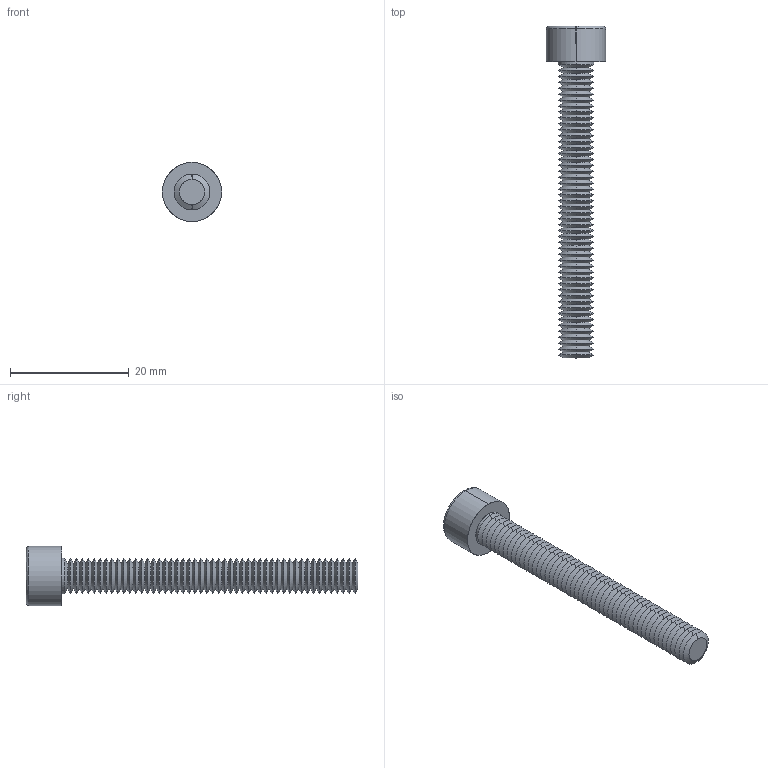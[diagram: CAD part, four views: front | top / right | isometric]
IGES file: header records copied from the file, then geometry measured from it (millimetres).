
Start section: SolidWorks IGES file using analytic representation for surfaces
Global section: file name: C:\Users\ianosborn\Desktop\N0007.91N_v2\N0007.91N_v2_20250519_IGES\91N.060.0500.igs; native system: SolidWorks 2019; preprocessor: SolidWorks 2019; author: IanOsborn; date: 250520.095334; units: millimetre
Bounding box: 10 x 56 x 10 mm (x, y, z)
Surface area: 2019.6 mm2 (no closed solid volume)
Topology: 0 solids, 0 shells, 228 faces, 1109 edges, 1107 vertices
Faces by surface type: revolution 211, bspline 17
